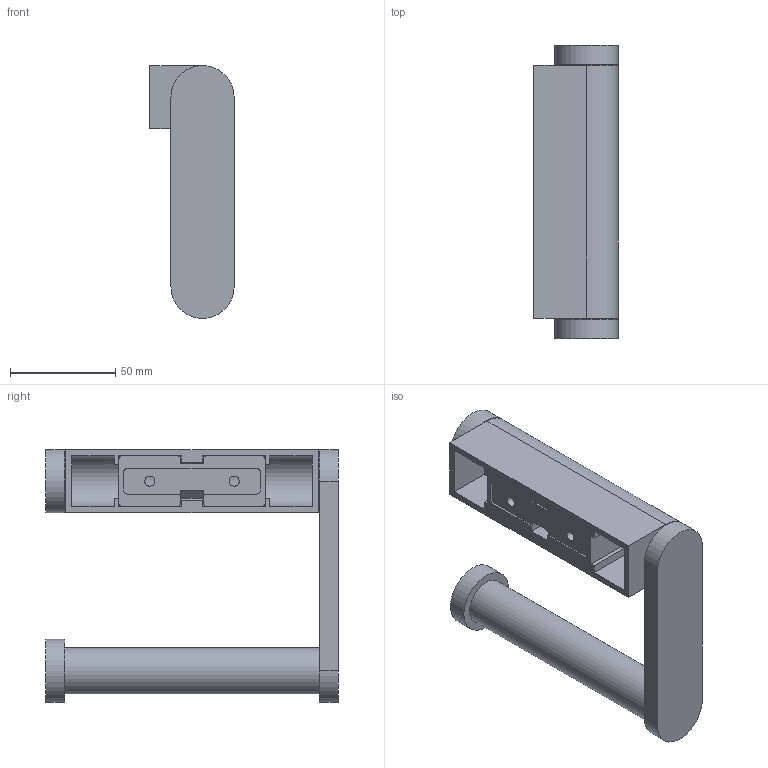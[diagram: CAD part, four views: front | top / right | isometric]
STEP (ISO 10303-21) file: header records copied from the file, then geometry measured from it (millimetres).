
FILE_DESCRIPTION(/* description */ (''),/* implementation_level */ '2;1');
FILE_NAME(/* name */ '4111 662',/* time_stamp */ '2019-08-20T09:44:49+08:00',/* author */ (''),/* organization */ (''),/* preprocessor_version */ 'ST-DEVELOPER v9',/* originating_system */ 'UGS - NX 4.0',/* authorisation */ '');
FILE_SCHEMA (('CONFIG_CONTROL_DESIGN'));
Length unit declared in the file: millimetre
Products named in the file (1): w337D95ig58
Bounding box: 40 x 139 x 120 mm (x, y, z)
Volume: 105799.3 mm3; surface area: 72446.3 mm2
Topology: 9 solids, 9 shells, 132 faces, 320 edges, 215 vertices
Faces by surface type: plane 87, cylinder 45
Full cylindrical faces by diameter (mm): 4.2 x2, 4.8 x2, 5 x7, 5.2 x1, 20.4 x1, 22 x1, 22.1 x1, 22.2 x1, 28 x3, 30 x2
Entity records: 3842 total; most frequent: DIRECTION 662, CARTESIAN_POINT 637, ORIENTED_EDGE 588, EDGE_CURVE 294, AXIS2_PLACEMENT_3D 235, VERTEX_POINT 210, LINE 192, VECTOR 192
